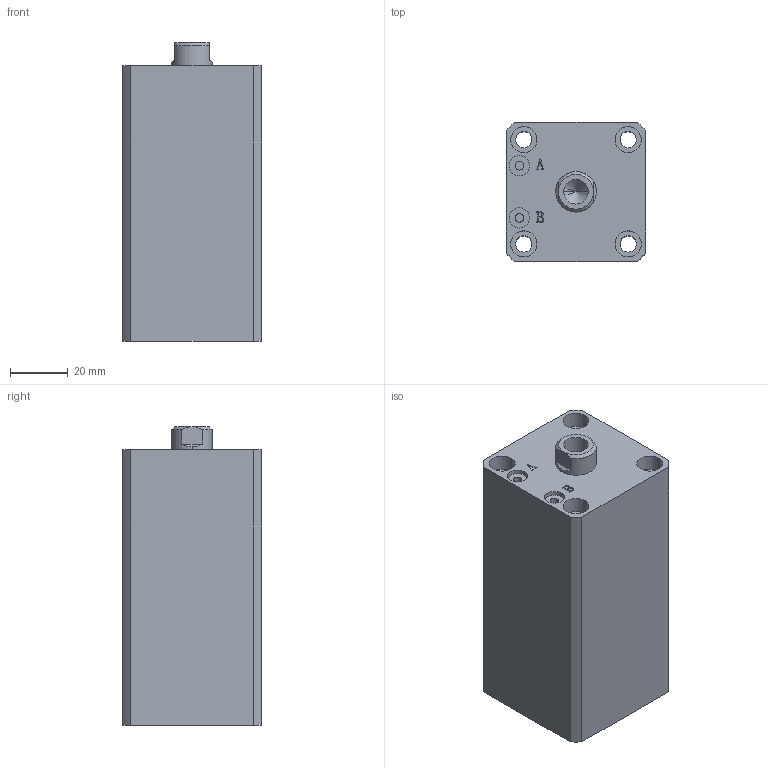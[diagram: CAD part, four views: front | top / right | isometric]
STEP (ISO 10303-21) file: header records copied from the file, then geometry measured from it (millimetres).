
FILE_DESCRIPTION (( 'STEP AP203' ), '1' );
FILE_NAME ('HTB-SDMA25-50N.STEP', '2019-10-07T10:54:37', ( '微软用户' ), ( '微软中国' ), 'SwSTEP 2.0', 'SolidWorks 2012', '' );
FILE_SCHEMA (( 'CONFIG_CONTROL_DESIGN' ));
Length unit declared in the file: millimetre
Products named in the file (3): HTB-SDMA25-50N; HTB-SDMA25-50N活塞杆; HTB-SDMA25-50掛极
Assembly tree (2 placements, depth 2):
  HTB-SDMA25-50N
    HTB-SDMA25-50掛极
    HTB-SDMA25-50N活塞杆
Bounding box: 48 x 48 x 103 mm (x, y, z)
Volume: 189315.8 mm3; surface area: 42307.9 mm2
Topology: 2 solids, 2 shells, 137 faces, 329 edges, 215 vertices
Faces by surface type: plane 65, cylinder 46, bspline 16, torus 6, cone 4
Entity records: 5072 total; most frequent: CARTESIAN_POINT 1592, ORIENTED_EDGE 654, DIRECTION 645, EDGE_CURVE 327, AXIS2_PLACEMENT_3D 232, VERTEX_POINT 215, LINE 181, VECTOR 181
